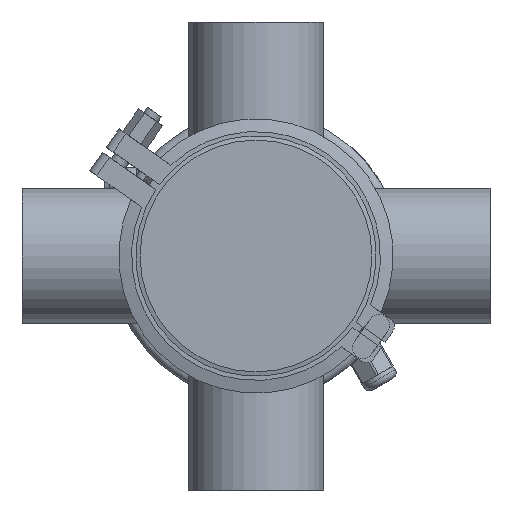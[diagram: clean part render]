
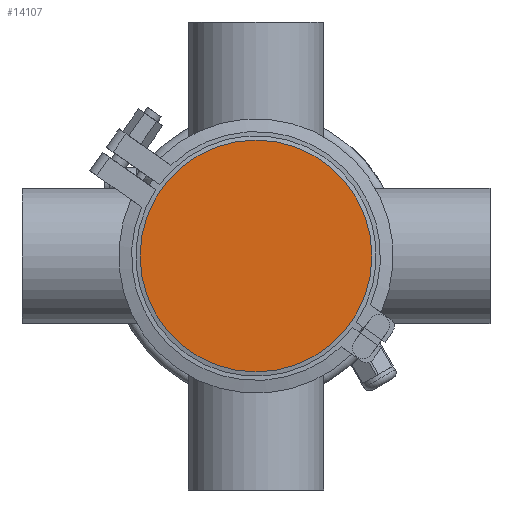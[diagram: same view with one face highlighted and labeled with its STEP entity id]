
A CAD part, front view. The second image highlights one B-rep face of the part: STEP entity #14107.
In plain terms, the highlighted planar face has unit normal (0, -1, 0).
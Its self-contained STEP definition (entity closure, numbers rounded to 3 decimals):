
#5250 = CARTESIAN_POINT ( 'NONE',  ( 0., 0., 0. ) ) ;
#8603 = FACE_OUTER_BOUND ( 'NONE', #24842, .T. ) ;
#14107 = ADVANCED_FACE ( 'NONE', ( #8603 ), #32649, .T. ) ;
#14975 = CIRCLE ( 'NONE', #18996, 54.5 ) ;
#18472 = DIRECTION ( 'NONE',  ( 0., 0., -1. ) ) ;
#18996 = AXIS2_PLACEMENT_3D ( 'NONE', #5250, #33934, #52763 ) ;
#24842 = EDGE_LOOP ( 'NONE', ( #59535 ) ) ;
#30720 = AXIS2_PLACEMENT_3D ( 'NONE', #51179, #32962, #18472 ) ;
#32298 = EDGE_CURVE ( 'NONE', #37333, #37333, #14975, .T. ) ;
#32649 = PLANE ( 'NONE',  #30720 ) ;
#32962 = DIRECTION ( 'NONE',  ( 0., -1., 0. ) ) ;
#33934 = DIRECTION ( 'NONE',  ( 0., 1., 0. ) ) ;
#37333 = VERTEX_POINT ( 'NONE', #56116 ) ;
#51179 = CARTESIAN_POINT ( 'NONE',  ( -54.5, 0., 0. ) ) ;
#52763 = DIRECTION ( 'NONE',  ( 0., 0., 1. ) ) ;
#56116 = CARTESIAN_POINT ( 'NONE',  ( 0., 0., 54.5 ) ) ;
#59535 = ORIENTED_EDGE ( 'NONE', *, *, #32298, .F. ) ;
